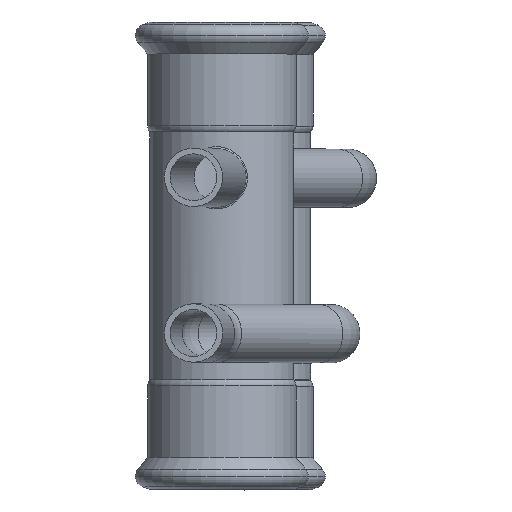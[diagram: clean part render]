
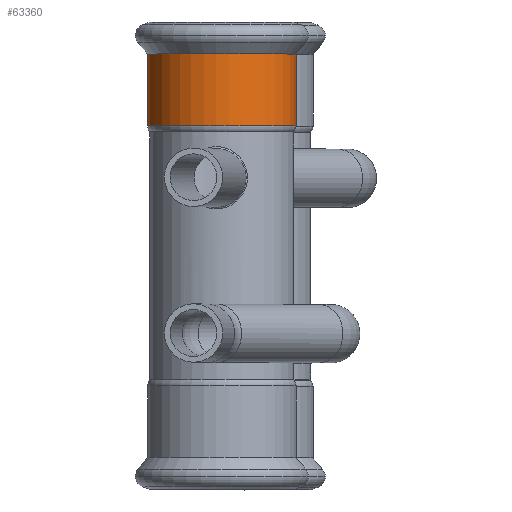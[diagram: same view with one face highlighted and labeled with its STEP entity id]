
A CAD part, top view. The second image highlights one B-rep face of the part: STEP entity #63360.
In plain terms, the highlighted cylindrical face has radius 19.1 mm (diameter 38.2 mm), a partial arc.
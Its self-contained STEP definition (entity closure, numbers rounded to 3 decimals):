
#62820=CARTESIAN_POINT('',(-13.178,62.055,
1.392));
#62830=VERTEX_POINT('',#62820);
#62910=CARTESIAN_POINT('',(-51.277,62.055,
-1.392));
#62920=VERTEX_POINT('',#62910);
#62950=CARTESIAN_POINT('',(-32.228,62.055,
0.));
#62960=DIRECTION('',(0.,1.,0.));
#62970=DIRECTION('',(-0.997,0.,
-0.073));
#62980=AXIS2_PLACEMENT_3D('',#62950,#62960,#62970);
#62990=CIRCLE('',#62980,19.1);
#63000=EDGE_CURVE('',#62830,#62920,#62990,.T.);
#63050=CARTESIAN_POINT('',(-32.228,52.855,
0.));
#63060=DIRECTION('',(0.,-1.,0.));
#63070=DIRECTION('',(-0.997,0.,
-0.073));
#63080=AXIS2_PLACEMENT_3D('',#63050,#63060,#63070);
#63090=CYLINDRICAL_SURFACE('',#63080,19.1);
#63100=CARTESIAN_POINT('',(-13.178,52.855,
1.392));
#63110=DIRECTION('',(0.,-1.,0.));
#63120=VECTOR('',#63110,1.);
#63130=LINE('',#63100,#63120);
#63140=CARTESIAN_POINT('',(-13.178,43.655,
1.392));
#63150=VERTEX_POINT('',#63140);
#63160=EDGE_CURVE('',#62830,#63150,#63130,.T.);
#63170=ORIENTED_EDGE('',*,*,#63160,.T.);
#63180=ORIENTED_EDGE('',*,*,#63000,.F.);
#63190=CARTESIAN_POINT('',(-51.277,52.855,
-1.392));
#63200=DIRECTION('',(0.,-1.,0.));
#63210=VECTOR('',#63200,1.);
#63220=LINE('',#63190,#63210);
#63230=CARTESIAN_POINT('',(-51.277,43.655,
-1.392));
#63240=VERTEX_POINT('',#63230);
#63250=EDGE_CURVE('',#62920,#63240,#63220,.T.);
#63260=ORIENTED_EDGE('',*,*,#63250,.F.);
#63270=CARTESIAN_POINT('',(-32.228,43.655,
0.));
#63280=DIRECTION('',(0.,1.,0.));
#63290=DIRECTION('',(-0.997,0.,
-0.073));
#63300=AXIS2_PLACEMENT_3D('',#63270,#63280,#63290);
#63310=CIRCLE('',#63300,19.1);
#63320=EDGE_CURVE('',#63150,#63240,#63310,.T.);
#63330=ORIENTED_EDGE('',*,*,#63320,.T.);
#63340=EDGE_LOOP('',(#63330,#63260,#63180,#63170));
#63350=FACE_OUTER_BOUND('',#63340,.T.);
#63360=ADVANCED_FACE('',(#63350),#63090,.T.);
